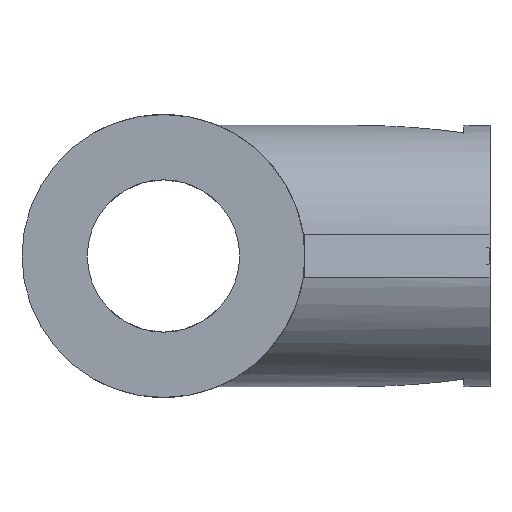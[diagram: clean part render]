
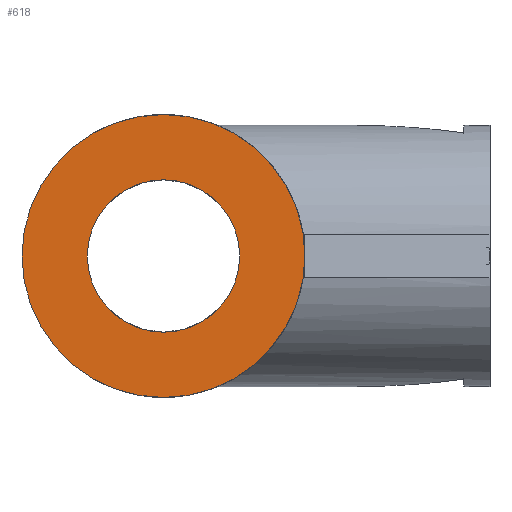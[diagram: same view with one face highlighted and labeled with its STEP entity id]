
A CAD part, front view. The second image highlights one B-rep face of the part: STEP entity #618.
In plain terms, the highlighted planar face has unit normal (0, -1, 0).
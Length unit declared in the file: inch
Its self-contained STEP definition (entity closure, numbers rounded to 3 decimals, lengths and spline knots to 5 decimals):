
#15=PLANE('',#722);
#140=FACE_BOUND('',#251,.T.);
#149=CIRCLE('',#690,1.625);
#158=CIRCLE('',#712,0.875);
#195=FACE_OUTER_BOUND('',#250,.T.);
#250=EDGE_LOOP('',(#485));
#251=EDGE_LOOP('',(#486));
#308=VERTEX_POINT('',#1138);
#329=VERTEX_POINT('',#1181);
#367=EDGE_CURVE('',#308,#308,#149,.T.);
#388=EDGE_CURVE('',#329,#329,#158,.T.);
#485=ORIENTED_EDGE('',*,*,#367,.T.);
#486=ORIENTED_EDGE('',*,*,#388,.F.);
#618=ADVANCED_FACE('',(#195,#140),#15,.T.);
#690=AXIS2_PLACEMENT_3D('',#1139,#798,#799);
#712=AXIS2_PLACEMENT_3D('',#1182,#842,#843);
#722=AXIS2_PLACEMENT_3D('',#1198,#862,#863);
#798=DIRECTION('center_axis',(0.,-1.,0.));
#799=DIRECTION('ref_axis',(1.,0.,0.));
#842=DIRECTION('center_axis',(0.,-1.,0.));
#843=DIRECTION('ref_axis',(1.,0.,0.));
#862=DIRECTION('center_axis',(0.,-1.,0.));
#863=DIRECTION('ref_axis',(0.,0.,-1.));
#1138=CARTESIAN_POINT('',(1.625,-5.,0.));
#1139=CARTESIAN_POINT('Origin',(0.,-5.,0.));
#1181=CARTESIAN_POINT('',(0.875,-5.,0.));
#1182=CARTESIAN_POINT('Origin',(0.,-5.,0.));
#1198=CARTESIAN_POINT('Origin',(0.,-5.,0.));
